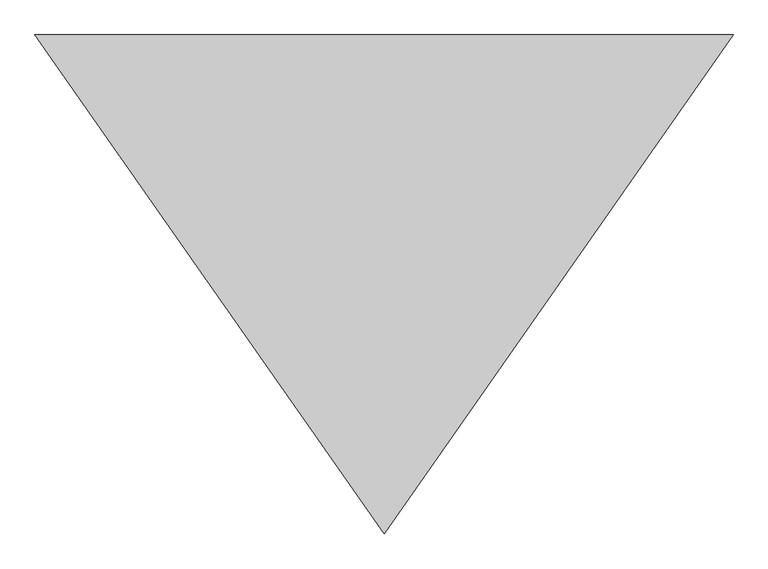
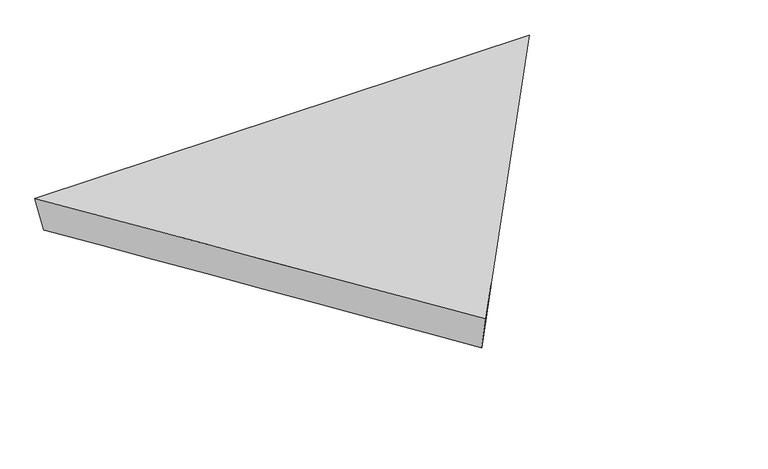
"""IFC4 building model written with IfcOpenShell, lengths in millimetres: plate geometry."""

import ifcopenshell
import ifcopenshell.guid

model = None  # the IFC model being written
_history = None  # IfcOwnerHistory: only IFC2X3 demands one
_inside = {}  # id of a spatial element -> (the spatial element, [elements in it])
_under = {}  # id of a project, library or spatial element -> (it, [spatial elements below it])
_declared = {}  # id of a project -> (the project, [libraries it declares])
_typed = {}  # id of a type object -> (the type object, [elements of that type])
_made_of = {}  # id of a material, layer set ... -> (it, [elements and type objects made of it])


def new_model(schema):
    """Start an empty IFC model of exactly this schema.

    Asked for "IFC4X3", IfcOpenShell would pick the latest addendum, in which some entities
    have other attributes; the version numbers below select the first issue.
    IFC2X3 requires an IfcOwnerHistory on every rooted entity: one is made here for all.
    """
    global model, _history
    if schema == "IFC4X3":
        model = ifcopenshell.file(schema_version=(4, 3, 0, 0))
    else:
        model = ifcopenshell.file(schema=schema)
    _inside.clear()
    _under.clear()
    _declared.clear()
    _typed.clear()
    _made_of.clear()
    _history = None
    if model.schema == "IFC2X3":
        org = make("IfcOrganization", Name="unknown")
        user = make(
            "IfcPersonAndOrganization",
            ThePerson=make("IfcPerson", FamilyName="unknown"),
            TheOrganization=org,
        )
        app = make(
            "IfcApplication",
            ApplicationDeveloper=org,
            Version="unknown",
            ApplicationFullName="unknown",
            ApplicationIdentifier="unknown",
        )
        _history = make(
            "IfcOwnerHistory",
            OwningUser=user,
            OwningApplication=app,
            ChangeAction="ADDED",
            CreationDate=0,
        )
    return model


def make(cls, **values):
    """One entity of the class cls with the attributes given. An attribute that is None is left unset."""
    return model.create_entity(
        cls, **{name: value for name, value in values.items() if value is not None}
    )


def rooted(cls, **values):
    """An entity with a GlobalId (a new one), such as an element, a storey or a relation."""
    return make(cls, GlobalId=ifcopenshell.guid.new(), OwnerHistory=_history, **values)


def si_unit(unit_type, name, prefix=None):
    """IfcSIUnit, for example si_unit("LENGTHUNIT", "METRE", prefix="MILLI")."""
    return make("IfcSIUnit", UnitType=unit_type, Prefix=prefix, Name=name)


def assignment(units):
    """IfcUnitAssignment: the units of a project."""
    return None if units is None else make("IfcUnitAssignment", Units=units)


def point(xyz):
    """IfcCartesianPoint."""
    return None if xyz is None else make("IfcCartesianPoint", Coordinates=xyz)


def direction(xyz):
    """IfcDirection."""
    return None if xyz is None else make("IfcDirection", DirectionRatios=xyz)


def frame(location, z_axis=None, x_axis=None):
    """IfcAxis2Placement3D, a coordinate frame: its origin and axes. An axis left out is left unset."""
    return make(
        "IfcAxis2Placement3D",
        Location=point(location),
        Axis=direction(z_axis),
        RefDirection=direction(x_axis),
    )


def origin():
    """The frame at (0, 0, 0) with its axes left unset."""
    return frame((0.0, 0.0, 0.0))


def place(relative_to, where):
    """IfcLocalPlacement: puts the frame where relative to a parent placement (None: the world)."""
    return make(
        "IfcLocalPlacement", PlacementRelTo=relative_to, RelativePlacement=where
    )


def context(
    kind, dimensions, precision=None, world=None, true_north=None, identifier=None
):
    """IfcGeometricRepresentationContext, for example the 3D "Model" context."""
    return make(
        "IfcGeometricRepresentationContext",
        ContextIdentifier=identifier,
        ContextType=kind,
        CoordinateSpaceDimension=dimensions,
        Precision=precision,
        WorldCoordinateSystem=world,
        TrueNorth=true_north,
    )


def project(units=None, contexts=None):
    """IfcProject with its units and contexts."""
    return rooted(
        "IfcProject",
        Name="project",
        RepresentationContexts=contexts,
        UnitsInContext=assignment(units),
    )


def spatial(cls, under=None, at=None, **own):
    """A site, building, storey or space (cls), placed at a placement, below another one or the project."""
    s = rooted(cls, ObjectPlacement=at, **own)
    if under is not None:
        _under.setdefault(under.id(), (under, []))[1].append(s)
    return s


def shape(context_of_items, identifier, shape_type, items):
    """IfcShapeRepresentation: the items that make up one representation, for example the "Body"."""
    return make(
        "IfcShapeRepresentation",
        ContextOfItems=context_of_items,
        RepresentationIdentifier=identifier,
        RepresentationType=shape_type,
        Items=items,
    )


def source(mapping_origin, context_of_items, identifier, shape_type, items):
    """IfcRepresentationMap: a shape defined once, which mapped items show again and again."""
    return make(
        "IfcRepresentationMap",
        MappingOrigin=mapping_origin,
        MappedRepresentation=shape(context_of_items, identifier, shape_type, items),
    )


def transform(
    local_origin,
    x_axis=None,
    y_axis=None,
    z_axis=None,
    scale=None,
    scale2=None,
    scale3=None,
    uniform=True,
):
    """IfcCartesianTransformationOperator3D, or its non-uniform kind. x_axis, y_axis, z_axis: its Axis1, 2, 3."""
    if uniform:
        return make(
            "IfcCartesianTransformationOperator3D",
            Axis1=direction(x_axis),
            Axis2=direction(y_axis),
            LocalOrigin=point(local_origin),
            Scale=scale,
            Axis3=direction(z_axis),
        )
    return make(
        "IfcCartesianTransformationOperator3DnonUniform",
        Axis1=direction(x_axis),
        Axis2=direction(y_axis),
        LocalOrigin=point(local_origin),
        Scale=scale,
        Axis3=direction(z_axis),
        Scale2=scale2,
        Scale3=scale3,
    )


def mapped(mapping_source, mapping_target):
    """IfcMappedItem: shows the shape of a source again, moved by a transform."""
    return make(
        "IfcMappedItem", MappingSource=mapping_source, MappingTarget=mapping_target
    )


def made_of(thing, what):
    """Note that an element or type object is made of a material, layer set ...; save() writes the relation."""
    if what is not None:
        _made_of.setdefault(what.id(), (what, []))[1].append(thing)
    return thing


def element(
    cls,
    number,
    at=None,
    inside=None,
    cuts=None,
    type_object=None,
    material=None,
    context=None,
    identifier="Body",
    shape_type=None,
    held_by="IfcProductDefinitionShape",
    body=None,
    shapes=None,
    **own,
):
    """One element of the class cls, such as IfcWall. Its Tag is "e" and its number.

    at: its placement. inside: the storey or other place that contains it. cuts: it is an
    opening in that element (IfcRelVoidsElement). A single representation is given by context,
    identifier, shape_type and body (its items); several are given by shapes. held_by: the class
    of the entity that holds the representations. save() writes the other relations.
    """
    e = rooted(cls, Tag="e%d" % number, ObjectPlacement=at, **own)
    if body is not None:
        shapes = [shape(context, identifier, shape_type, body)]
    if shapes is not None:
        e.Representation = make(held_by, Representations=shapes)
    if inside is not None:
        _inside.setdefault(inside.id(), (inside, []))[1].append(e)
    if cuts is not None:
        rooted(
            "IfcRelVoidsElement", RelatingBuildingElement=cuts, RelatedOpeningElement=e
        )
    if type_object is not None:
        _typed.setdefault(type_object.id(), (type_object, []))[1].append(e)
    return made_of(e, material)


def aggregate(whole, parts):
    """IfcRelAggregates: a whole, such as a stair, and the parts it consists of."""
    return rooted("IfcRelAggregates", RelatingObject=whole, RelatedObjects=parts)


def save(model, path):
    """Write the relations noted so far, then the file.

    IfcRelAggregates (storeys below a building ...), IfcRelContainedInSpatialStructure (elements
    in a storey), IfcRelDefinesByType, IfcRelAssociatesMaterial and IfcRelDeclares: one each for
    every whole, place, type object, material and project.
    """
    for whole, parts in _under.values():
        aggregate(whole, parts)
    for where, things in _inside.values():
        rooted(
            "IfcRelContainedInSpatialStructure",
            RelatedElements=things,
            RelatingStructure=where,
        )
    for kind, things in _typed.values():
        rooted("IfcRelDefinesByType", RelatedObjects=things, RelatingType=kind)
    for what, things in _made_of.values():
        rooted("IfcRelAssociatesMaterial", RelatedObjects=things, RelatingMaterial=what)
    for by, libraries in _declared.values():
        rooted("IfcRelDeclares", RelatingContext=by, RelatedDefinitions=libraries)
    model.write(path)


def plane_surface(at):
    """IfcPlane: the flat surface through the origin of the frame at, square to its z axis."""
    return make("IfcPlane", Position=at)


def spline_surface(u_degree, v_degree, points, u_multiplicities, v_multiplicities, u_knots, v_knots, weights=None):
    """IfcBSplineSurfaceWithKnots; with weights, IfcRationalBSplineSurfaceWithKnots. points: one row for each step in u."""
    own = dict(
        UDegree=u_degree,
        VDegree=v_degree,
        ControlPointsList=[[point(p) for p in row] for row in points],
        SurfaceForm="UNSPECIFIED",
        UClosed=False,
        VClosed=False,
        SelfIntersect=False,
        UMultiplicities=u_multiplicities,
        VMultiplicities=v_multiplicities,
        UKnots=u_knots,
        VKnots=v_knots,
        KnotSpec="UNSPECIFIED",
    )
    if weights is None:
        return make("IfcBSplineSurfaceWithKnots", **own)
    return make("IfcRationalBSplineSurfaceWithKnots", WeightsData=weights, **own)


def advanced_brep(points, edges, surfaces, faces):
    """IfcAdvancedBrep: a solid bounded by faces that lie on surfaces and meet in shared edges.

    An edge is (start, end): straight between two places in points (the first is 0);
    or (start, end, curve); or (start, end, curve, False) where it runs against its curve.
    A face is (place in surfaces, loops), or (place, loops, False) where it looks against
    its surface's normal. A loop lists edges by number (the first is 1), with a minus sign
    where the edge is run from its end to its start. The first loop is the outer one.
    """
    corners = [point(p) for p in points]
    vertices = [make("IfcVertexPoint", VertexGeometry=c) for c in corners]
    made = []
    for start, end, *more in edges:
        made.append(
            make(
                "IfcEdgeCurve",
                EdgeStart=vertices[start],
                EdgeEnd=vertices[end],
                EdgeGeometry=more[0] if more else make("IfcPolyline", Points=[corners[start], corners[end]]),
                SameSense=more[1] if len(more) > 1 else True,
            )
        )
    hull = []
    for where, loops, *sense in faces:
        bounds = []
        for j, loop in enumerate(loops):
            ring = [make("IfcOrientedEdge", EdgeElement=made[abs(k) - 1], Orientation=k > 0) for k in loop]
            bounds.append(
                make(
                    "IfcFaceOuterBound" if j == 0 else "IfcFaceBound",
                    Bound=make("IfcEdgeLoop", EdgeList=ring),
                    Orientation=True,
                )
            )
        hull.append(make("IfcAdvancedFace", Bounds=bounds, FaceSurface=surfaces[where], SameSense=sense[0] if sense else True))
    return make("IfcAdvancedBrep", Outer=make("IfcClosedShell", CfsFaces=hull))


def plate_40989ffa(model_context):
    return source(origin(), model_context, "Body", "AdvancedBrep", [
        advanced_brep(
        [(6096.0, 3780.8754087, 0.0), (7452.4087631, 5729.5622956, 0.0), (7496.8614846, 5740.5230694, 197.9748898), (6096.0, 3738.3549057, 198.7014012), (4739.5912369, 5729.5622956, 0.0), (4695.1385154, 5740.5230694, 197.9748898)],
        [
            (0, 1),
            (1, 2),
            (2, 3),
            (3, 0),
            (1, 4),
            (4, 5),
            (5, 2),
            (4, 0),
            (3, 5),
        ],
        [
            spline_surface(1, 1, [[(6096.0, 3780.8754087, 0.0), (6096.0, 3738.3549057, 198.7014012)], [(7452.4087631, 5729.5622956, 0.0), (7496.8614846, 5740.5230694, 197.9748898)]], [2, 2], [2, 2], [0.0, 1.0], [0.0, 1.0]),
            plane_surface(frame((6096.0, 5729.5622956, 0.0), z_axis=(0.0, 0.9984709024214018, -0.055279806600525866), x_axis=(-1.0, 0.0, 0.0))),
            spline_surface(1, 1, [[(4739.5912369, 5729.5622956, 0.0), (4695.1385154, 5740.5230694, 197.9748898)], [(6096.0, 3780.8754087, 0.0), (6096.0, 3738.3549057, 198.7014012)]], [2, 2], [2, 2], [0.0, 1.0], [0.0, 1.0]),
            plane_surface(frame((6096.0, 5073.1336815, 198.2170602), z_axis=(0.0, 0.00036286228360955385, 0.9999999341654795), x_axis=(0.5732820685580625, -0.8193580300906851, 0.0002973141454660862))),
            plane_surface(frame((6096.0, 5080.0, 0.0), z_axis=(0.0, 0.0, -1.0), x_axis=(-0.5712916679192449, 0.8207471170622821, 0.0))),
        ],
        [
            (0, [[1, 2, 3, 4]]),
            (1, [[5, 6, 7, -2]]),
            (2, [[8, -4, 9, -6]]),
            (3, [[-9, -3, -7]]),
            (4, [[-8, -5, -1]]),
        ],
    ),
    ])


if __name__ == "__main__":
    model = new_model("IFC4")
    model_context = context("Model", 3, world=origin())
    ifc_project = project(units=[si_unit("LENGTHUNIT", "METRE", prefix="MILLI")], contexts=[model_context])
    site = spatial("IfcSite", under=ifc_project)
    building = spatial("IfcBuilding", under=site)
    placement = place(None, origin())
    plate_shape = plate_40989ffa(model_context)
    element("IfcPlate", 1, ObjectType="tn_cpanel_patbase_triangle_flat_seamless_solid_01 : tn_cpanel_pattern_mullion_h8\"", at=placement, inside=building, context=model_context, shape_type="MappedRepresentation", body=[
        mapped(plate_shape, transform((0.0, 0.0, 0.0), x_axis=(1.0, 0.0, 0.0), y_axis=(0.0, 1.0, 0.0), z_axis=(0.0, 0.0, 1.0))),
    ])
    save(model, "model.ifc")
